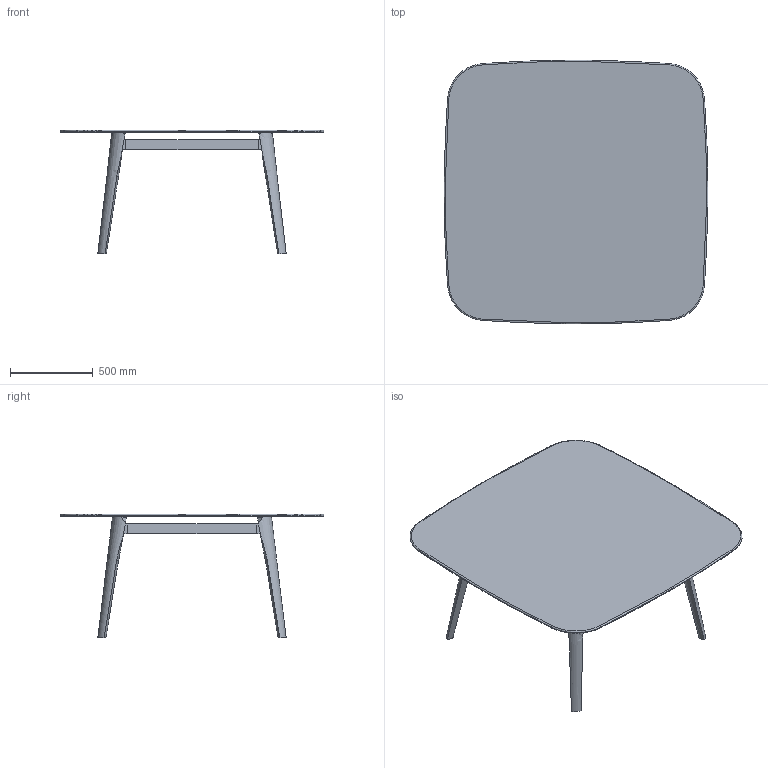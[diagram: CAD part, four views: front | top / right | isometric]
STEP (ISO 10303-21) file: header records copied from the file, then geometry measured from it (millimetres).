
FILE_DESCRIPTION(/* description */ (''),/* implementation_level */ '2;1');
FILE_NAME(/* name */ 'MAGMA_~2',/* time_stamp */ '2018-06-29T17:33:38+02:00',/* author */ (''),/* organization */ (''),/* preprocessor_version */ 'ST-DEVELOPER v16.5',/* originating_system */ '',/* authorisation */ '');
FILE_SCHEMA (('CONFIG_CONTROL_DESIGN'));
Length unit declared in the file: millimetre
Products named in the file (1): Document
Bounding box: 1595.47 x 1595.47 x 750.07 mm (x, y, z)
Volume: 49385864.6 mm3; surface area: 6235285.7 mm2
Topology: 7 solids, 9 shells, 206 faces, 586 edges, 396 vertices
Faces by surface type: bspline 144, plane 62
Entity records: 43740 total; most frequent: CARTESIAN_POINT 40007, ORIENTED_EDGE 1164, EDGE_CURVE 586, B_SPLINE_CURVE_WITH_KNOTS 546, VERTEX_POINT 396, ADVANCED_FACE 206, FACE_OUTER_BOUND 206, EDGE_LOOP 206
